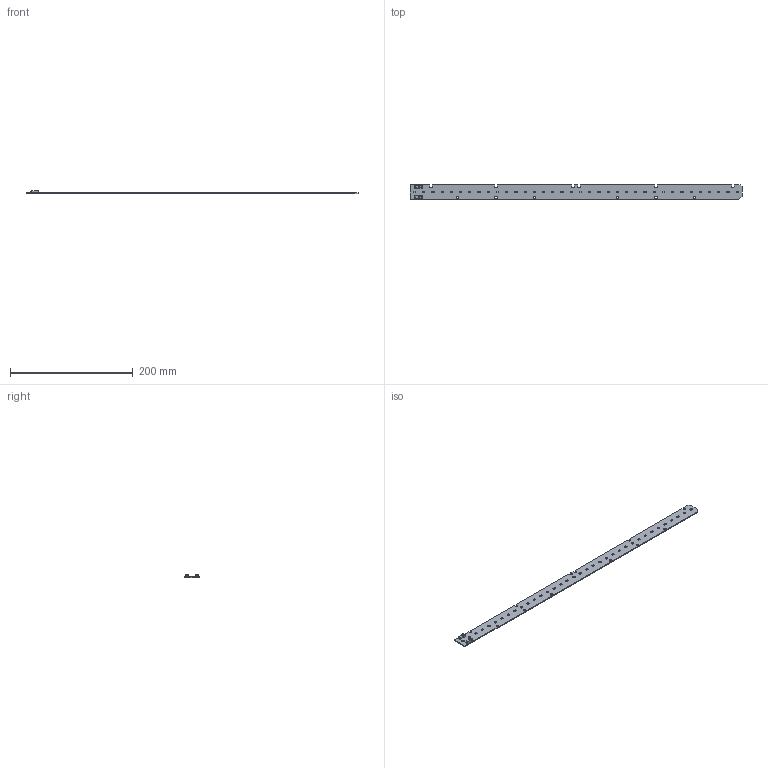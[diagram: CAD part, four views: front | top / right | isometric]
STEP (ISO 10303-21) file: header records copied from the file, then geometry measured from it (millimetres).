
FILE_DESCRIPTION (( 'STEP AP203' ), '1' );
FILE_NAME ('led_module LZ540.STEP', '2018-02-14T10:47:22', ( '' ), ( '' ), 'SwSTEP 2.0', 'SolidWorks 2014', '' );
FILE_SCHEMA (( 'CONFIG_CONTROL_DESIGN' ));
Length unit declared in the file: millimetre
Products named in the file (4): 7800175; LM28xB Series_zippi_pieni; led_module LZ540; 75834A
Assembly tree (39 placements, depth 2):
  led_module LZ540
    75834A
    7800175  x2
    LM28xB Series_zippi_pieni  x36
Bounding box: 540 x 24 x 5.95 mm (x, y, z)
Volume: 20883.2 mm3; surface area: 29099.9 mm2
Topology: 39 solids, 39 shells, 2222 faces, 6518 edges, 4416 vertices
Faces by surface type: plane 1496, cylinder 724, bspline 2
Entity records: 8248 total; most frequent: CARTESIAN_POINT 1604, ORIENTED_EDGE 1136, DIRECTION 1044, EDGE_CURVE 568, LINE 388, VECTOR 388, VERTEX_POINT 380, AXIS2_PLACEMENT_3D 328
